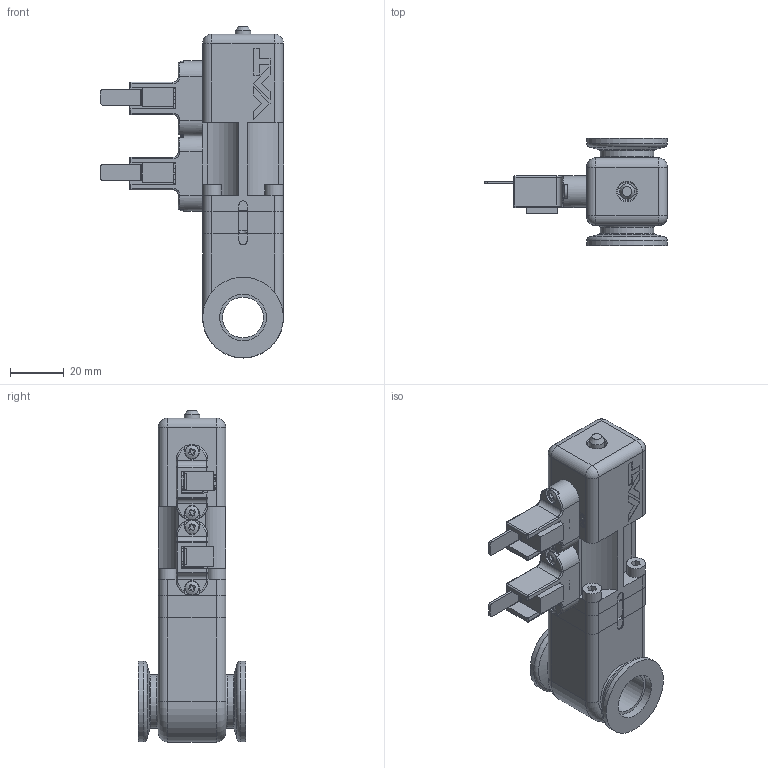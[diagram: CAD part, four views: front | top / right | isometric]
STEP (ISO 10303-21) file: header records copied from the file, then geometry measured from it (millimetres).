
FILE_DESCRIPTION(/* description */ (''),/* implementation_level */ '2;1');
FILE_NAME(/* name */ '1026099217_203.stp',/* time_stamp */ '2015-08-07T09:18:56+02:00',/* author */ (''),/* organization */ (''),/* preprocessor_version */ 'ST-DEVELOPER v15',/* originating_system */ 'SIEMENS PLM Software NX 9.0',/* authorisation */ '');
FILE_SCHEMA (('AP203_CONFIGURATION_CONTROLLED_3D_DESIGN_OF_MECHANICAL_PARTS_AND_ASSEMBLIES_MIM_LF { 1 0 10303 403 2 1 2}'));
Length unit declared in the file: millimetre
Products named in the file (17): 227430.1; N-8409-200.3; 92571-01.2; 92586-01.2; 227328.2; 227452.1; N-6024-515.1; 227450.1; 323431.3; 93767-01.2; 224792.1; 92576-01.1; 227117.3; 226699_NX-ARRAGMNTZUSAMMENST1; 510755_MODELNX-ARRAGMNTMassbild; 511603_NX-ARRAGMNTMassbild; 705024
Assembly tree (21 placements, depth 4):
  705024
    92576-01.1
    511603_NX-ARRAGMNTMassbild
      93767-01.2
      510755_MODELNX-ARRAGMNTMassbild
        92586-01.2
      323431.3
    224792.1  x4
    226699_NX-ARRAGMNTZUSAMMENST1  x2
      227450.1
      N-6024-515.1
      227452.1
      227328.2
      227117.3
        92571-01.2
        N-8409-200.3
        227430.1
Bounding box: 67.8 x 39.9 x 123 mm (x, y, z)
Volume: 68163.8 mm3; surface area: 42445.8 mm2
Topology: 32 solids, 32 shells, 1094 faces, 2685 edges, 1732 vertices
Faces by surface type: plane 679, cylinder 264, torus 53, extrusion 38, cone 24, bspline 20, sphere 16
Full cylindrical faces by diameter (mm): 0.4 x6, 0.6 x4, 1 x1, 1.1 x4, 1.9 x1, 2 x8, 2.5 x12, 2.9 x4, 3 x2, 3.26 x4, 3.3 x8, 4 x8, 4.2 x10, 5 x6, 5.7 x1, 7 x4, 7.008 x1, 8.008 x1, 10.25 x1, 13.05 x1, 15.1 x2, 15.985 x2, 16.1 x1, 17.3 x2, 19.9 x2, 29.9 x2
Entity records: 26728 total; most frequent: CARTESIAN_POINT 6545, ORIENTED_EDGE 3566, DIRECTION 3452, EDGE_CURVE 1783, AXIS2_PLACEMENT_3D 1228, VERTEX_POINT 1216, EDGE_LOOP 1004, VECTOR 996
